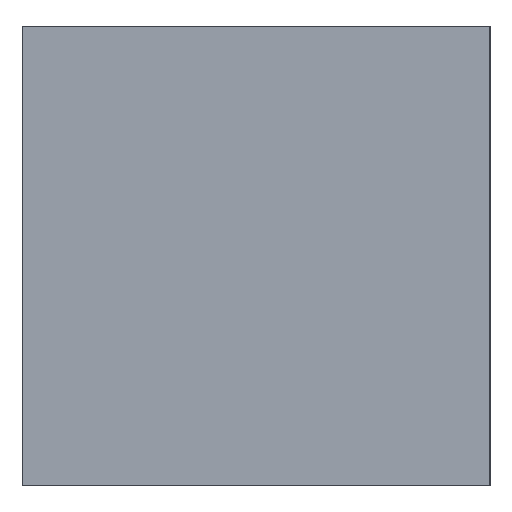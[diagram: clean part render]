
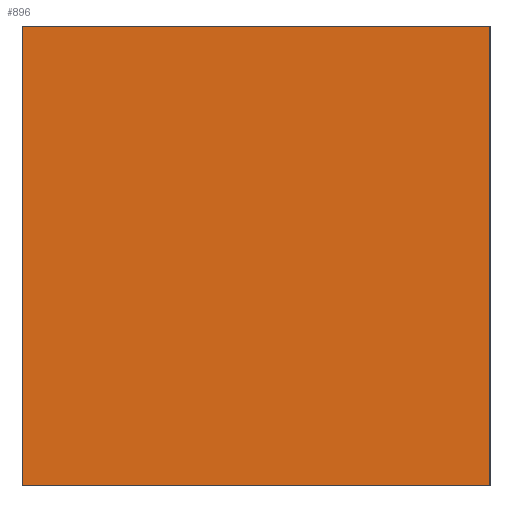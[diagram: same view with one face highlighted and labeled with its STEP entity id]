
A CAD part, left-side view. The second image highlights one B-rep face of the part: STEP entity #896.
In plain terms, the highlighted planar face has unit normal (-1, 0, 0).
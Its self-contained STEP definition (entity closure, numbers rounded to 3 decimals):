
#41=DIRECTION('',(0.,0.,-1.));
#42=VECTOR('',#41,56.);
#43=CARTESIAN_POINT('',(-40.,1471.5,0.));
#44=LINE('',#43,#42);
#111=DIRECTION('',(0.,0.,1.));
#112=VECTOR('',#111,56.);
#113=CARTESIAN_POINT('',(-40.,1528.5,-56.));
#114=LINE('',#113,#112);
#221=DIRECTION('',(0.,1.,0.));
#222=VECTOR('',#221,57.);
#223=CARTESIAN_POINT('',(-40.,1471.5,0.));
#224=LINE('',#223,#222);
#225=DIRECTION('',(0.,-1.,0.));
#226=VECTOR('',#225,57.);
#227=CARTESIAN_POINT('',(-40.,1528.5,-56.));
#228=LINE('',#227,#226);
#517=CARTESIAN_POINT('',(-40.,1528.5,-56.));
#518=CARTESIAN_POINT('',(-40.,1528.5,0.));
#519=VERTEX_POINT('',#517);
#520=VERTEX_POINT('',#518);
#549=CARTESIAN_POINT('',(-40.,1471.5,0.));
#550=VERTEX_POINT('',#549);
#575=CARTESIAN_POINT('',(-40.,1471.5,-56.));
#576=VERTEX_POINT('',#575);
#884=CARTESIAN_POINT('',(-40.,1500.,-56.));
#885=DIRECTION('',(-1.,0.,0.));
#886=DIRECTION('',(0.,0.,1.));
#887=AXIS2_PLACEMENT_3D('',#884,#885,#886);
#888=PLANE('',#887);
#889=ORIENTED_EDGE('',*,*,#797,.T.);
#890=ORIENTED_EDGE('',*,*,#849,.F.);
#891=ORIENTED_EDGE('',*,*,#682,.T.);
#893=ORIENTED_EDGE('',*,*,#892,.F.);
#894=EDGE_LOOP('',(#889,#890,#891,#893));
#895=FACE_OUTER_BOUND('',#894,.F.);
#682=EDGE_CURVE('',#550,#576,#44,.T.);
#797=EDGE_CURVE('',#519,#520,#114,.T.);
#849=EDGE_CURVE('',#550,#520,#224,.T.);
#892=EDGE_CURVE('',#519,#576,#228,.T.);
#896=ADVANCED_FACE('',(#895),#888,.T.);
